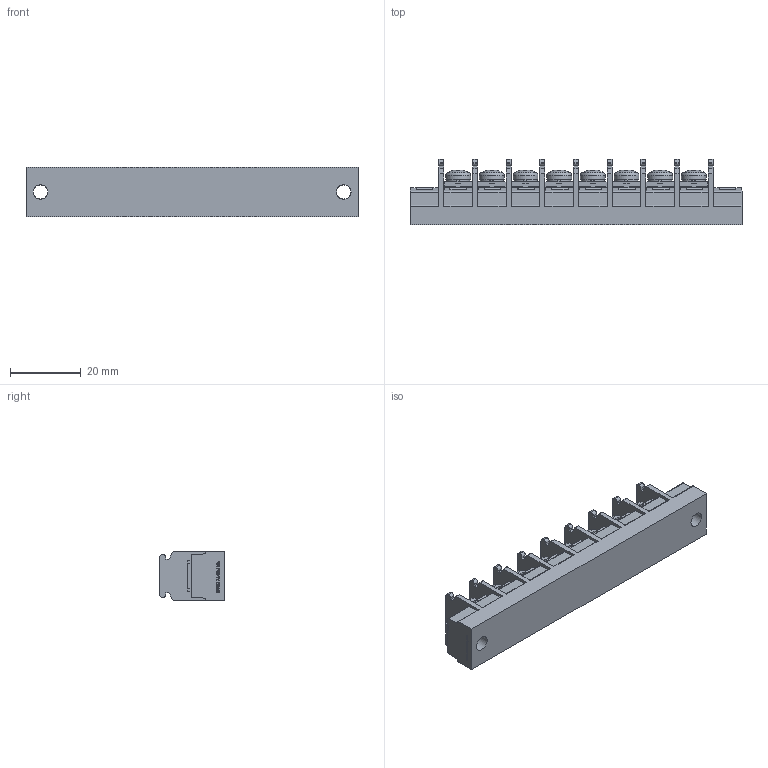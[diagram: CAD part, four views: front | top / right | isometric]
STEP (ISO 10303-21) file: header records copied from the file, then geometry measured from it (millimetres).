
FILE_DESCRIPTION(/* description */ ('Alibre Inc.'),/* implementation_level */ '2;1');
FILE_NAME(/* name */ 'export-F759B397-C93F-4505-A9B4-80FED3A4B432',/* time_stamp */ '2021-02-13T15:53:00+09:00',/* author */ (''),/* organization */ (''),/* preprocessor_version */ 'ST-DEVELOPER v17',/* originating_system */ 'Alibre',/* authorisation */ '');
FILE_SCHEMA (('CONFIG_CONTROL_DESIGN'));
Length unit declared in the file: millimetre
Bounding box: 93.7 x 18.5 x 14 mm (x, y, z)
Volume: 15045.7 mm3; surface area: 9868.2 mm2
Topology: 1 solids, 25 shells, 1363 faces, 3886 edges, 2566 vertices
Faces by surface type: plane 1019, cylinder 176, bspline 104, cone 40, torus 16, sphere 8
Full cylindrical faces by diameter (mm): 4 x18, 4.2 x2, 7 x8
Entity records: 42164 total; most frequent: CARTESIAN_POINT 8706, ORIENTED_EDGE 7632, DIRECTION 5466, EDGE_CURVE 3816, VECTOR 2768, LINE 2768, VERTEX_POINT 2548, AXIS2_PLACEMENT_3D 1822
